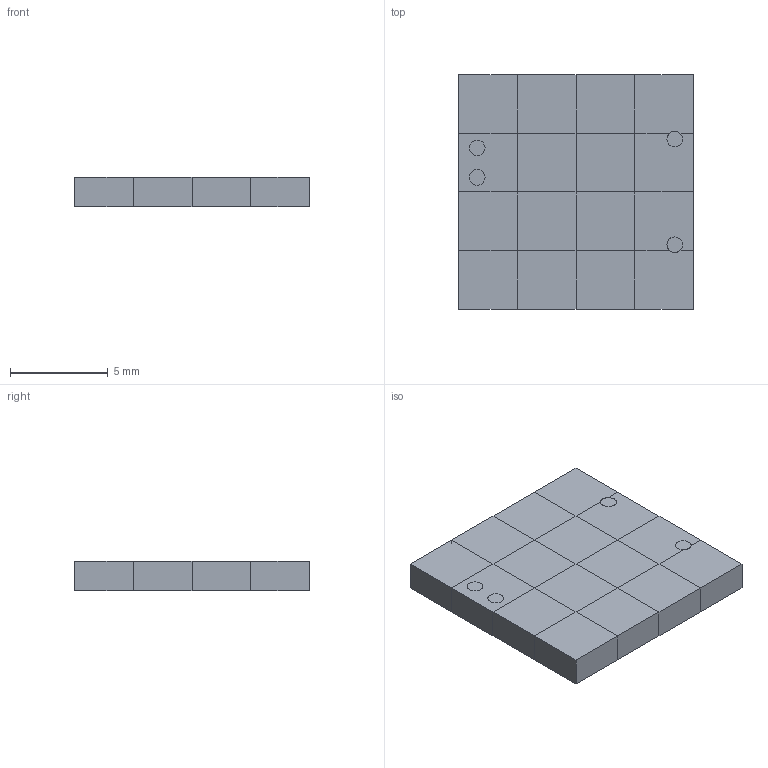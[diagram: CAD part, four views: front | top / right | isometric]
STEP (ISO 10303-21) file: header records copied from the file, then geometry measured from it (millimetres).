
FILE_DESCRIPTION(('Open CASCADE Model'),'2;1');
FILE_NAME('Open CASCADE Shape Model','2026-11-27T03:57:18',('Author'),( 'Open CASCADE'),'Open CASCADE STEP processor 7.9','Open CASCADE 7.9' ,'Unknown');
FILE_SCHEMA(('AUTOMOTIVE_DESIGN { 1 0 10303 214 1 1 1 1 }'));
Length unit declared in the file: millimetre
Products named in the file (3): manifold_S0; fluid; solid
Assembly tree (2 placements, depth 2):
  manifold_S0
    fluid
    solid
Bounding box: 12 x 12 x 1.5 mm (x, y, z)
Volume: 216 mm3; surface area: 1218 mm2
Topology: 2 solids, 2 shells, 756 faces, 2406 edges, 1422 vertices
Faces by surface type: plane 748, cylinder 8
Full cylindrical faces by diameter (mm): 0.8 x8
Entity records: 57422 total; most frequent: CARTESIAN_POINT 10519, DIRECTION 8492, LINE 6650, VECTOR 6650, ORIENTED_EDGE 4812, PCURVE 4812, DEFINITIONAL_REPRESENTATION 4812, EDGE_CURVE 2406
